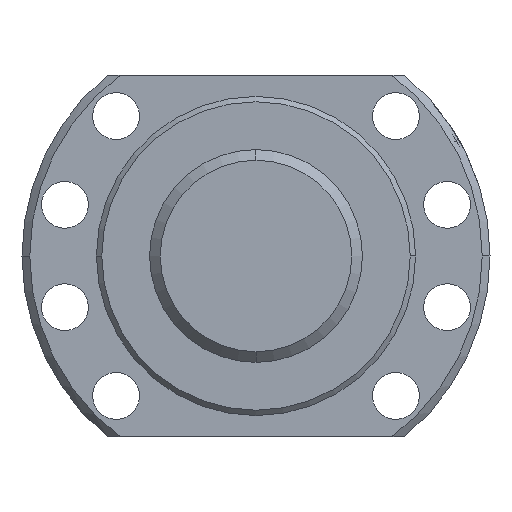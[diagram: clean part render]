
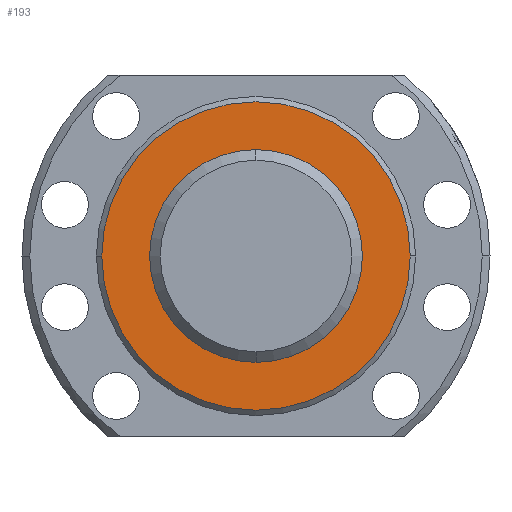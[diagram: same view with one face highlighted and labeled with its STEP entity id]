
A CAD part, left-side view. The second image highlights one B-rep face of the part: STEP entity #193.
In plain terms, the highlighted planar face has unit normal (-1, 0, 0).
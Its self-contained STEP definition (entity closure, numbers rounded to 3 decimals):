
#193 = ADVANCED_FACE( '', ( #361, #362 ), #363, .T. );
#361 = FACE_BOUND( '', #530, .T. );
#362 = FACE_OUTER_BOUND( '', #531, .T. );
#363 = PLANE( '', #532 );
#530 = EDGE_LOOP( '', ( #1073, #1074 ) );
#531 = EDGE_LOOP( '', ( #1075, #1076 ) );
#532 = AXIS2_PLACEMENT_3D( '', #1077, #1078, #1079 );
#1073 = ORIENTED_EDGE( '', *, *, #1235, .F. );
#1074 = ORIENTED_EDGE( '', *, *, #1149, .F. );
#1075 = ORIENTED_EDGE( '', *, *, #1121, .T. );
#1076 = ORIENTED_EDGE( '', *, *, #1246, .T. );
#1077 = CARTESIAN_POINT( '', ( 5., 30.625, 0. ) );
#1078 = DIRECTION( '', ( -1., 0., 0. ) );
#1079 = DIRECTION( '', ( 0., 1., 0. ) );
#1121 = EDGE_CURVE( '', #1310, #1314, #1316, .T. );
#1149 = EDGE_CURVE( '', #1366, #1362, #1368, .T. );
#1235 = EDGE_CURVE( '', #1362, #1366, #1509, .T. );
#1246 = EDGE_CURVE( '', #1314, #1310, #1520, .T. );
#1310 = VERTEX_POINT( '', #1598 );
#1314 = VERTEX_POINT( '', #1603 );
#1316 = CIRCLE( '', #1606, 36.25 );
#1362 = VERTEX_POINT( '', #1682 );
#1366 = VERTEX_POINT( '', #1687 );
#1368 = CIRCLE( '', #1690, 25. );
#1509 = CIRCLE( '', #2049, 25. );
#1520 = CIRCLE( '', #2060, 36.25 );
#1598 = CARTESIAN_POINT( '', ( 5., 36.25, 0. ) );
#1603 = CARTESIAN_POINT( '', ( 5., -36.25, 0. ) );
#1606 = AXIS2_PLACEMENT_3D( '', #2152, #2153, #2154 );
#1682 = CARTESIAN_POINT( '', ( 5., 25., 0. ) );
#1687 = CARTESIAN_POINT( '', ( 5., -25., 0. ) );
#1690 = AXIS2_PLACEMENT_3D( '', #2202, #2203, #2204 );
#2049 = AXIS2_PLACEMENT_3D( '', #2367, #2368, #2369 );
#2060 = AXIS2_PLACEMENT_3D( '', #2400, #2401, #2402 );
#2152 = CARTESIAN_POINT( '', ( 5., 0., 0. ) );
#2153 = DIRECTION( '', ( -1., 0., 0. ) );
#2154 = DIRECTION( '', ( 0., 1., 0. ) );
#2202 = CARTESIAN_POINT( '', ( 5., 0., 0. ) );
#2203 = DIRECTION( '', ( -1., 0., 0. ) );
#2204 = DIRECTION( '', ( 0., 1., 0. ) );
#2367 = CARTESIAN_POINT( '', ( 5., 0., 0. ) );
#2368 = DIRECTION( '', ( -1., 0., 0. ) );
#2369 = DIRECTION( '', ( 0., 1., 0. ) );
#2400 = CARTESIAN_POINT( '', ( 5., 0., 0. ) );
#2401 = DIRECTION( '', ( -1., 0., 0. ) );
#2402 = DIRECTION( '', ( 0., 1., 0. ) );
